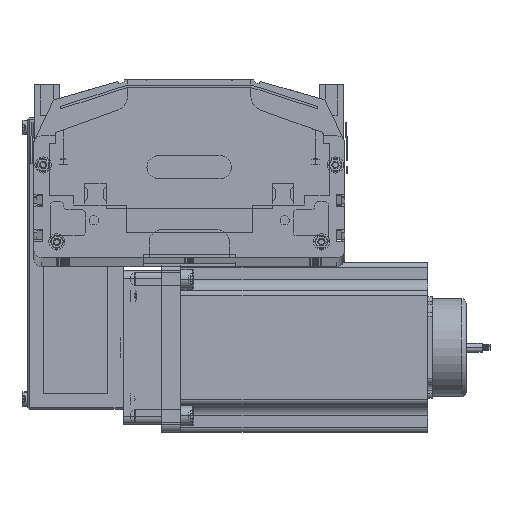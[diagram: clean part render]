
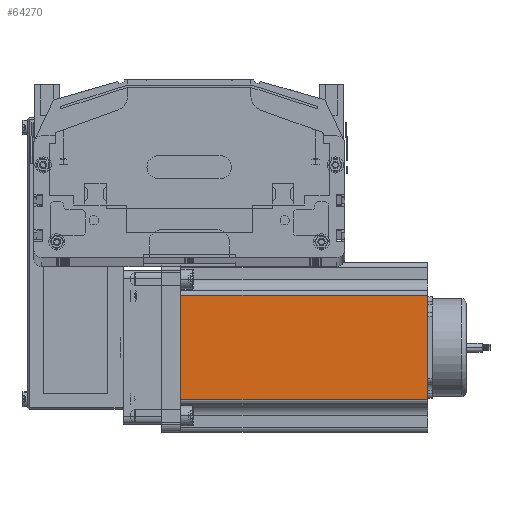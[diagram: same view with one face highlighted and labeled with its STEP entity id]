
A CAD part, top view. The second image highlights one B-rep face of the part: STEP entity #64270.
In plain terms, the highlighted planar face has unit normal (0, 0, 1) as drawn and (0, -1, 0) by its records, which use the part's own axes.
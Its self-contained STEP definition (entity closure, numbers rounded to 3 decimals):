
#23319 = LINE ( 'NONE', #23556, #23552 ) ;
#23420 = CARTESIAN_POINT ( 'NONE',  ( 88.952, 0., 160.5 ) ) ;
#23550 = DIRECTION ( 'NONE',  ( 1., 0., 0. ) ) ;
#23552 = VECTOR ( 'NONE', #23550, 1000. ) ;
#23556 = CARTESIAN_POINT ( 'NONE',  ( 0., 0., 160.5 ) ) ;
#34845 = DIRECTION ( 'NONE',  ( 0., 0., 1. ) ) ;
#34846 = VECTOR ( 'NONE', #34845, 1000. ) ;
#34849 = CARTESIAN_POINT ( 'NONE',  ( 88.952, 0., 160.5 ) ) ;
#34851 = LINE ( 'NONE', #34849, #34846 ) ;
#54143 = ORIENTED_EDGE ( 'NONE', *, *, #55963, .T. ) ;
#54160 = ORIENTED_EDGE ( 'NONE', *, *, #58256, .T. ) ;
#54167 = EDGE_CURVE ( 'NONE', #64269, #54170, #23319, .T. ) ;
#54170 = VERTEX_POINT ( 'NONE', #23420 ) ;
#55943 = ORIENTED_EDGE ( 'NONE', *, *, #54167, .F. ) ;
#55963 = EDGE_CURVE ( 'NONE', #64269, #64277, #89065, .T. ) ;
#57427 = ORIENTED_EDGE ( 'NONE', *, *, #57428, .T. ) ;
#57428 = EDGE_CURVE ( 'NONE', #64277, #64275, #94447, .T. ) ;
#58256 = EDGE_CURVE ( 'NONE', #64275, #54170, #34851, .T. ) ;
#64269 = VERTEX_POINT ( 'NONE', #77148 ) ;
#64270 = ADVANCED_FACE ( 'NONE', ( #77154 ), #77144, .F. ) ;
#64275 = VERTEX_POINT ( 'NONE', #77163 ) ;
#64277 = VERTEX_POINT ( 'NONE', #77201 ) ;
#68737 = EDGE_LOOP ( 'NONE', ( #57427, #54160, #55943, #54143 ) ) ;
#77144 = PLANE ( 'NONE',  #77155 ) ;
#77148 = CARTESIAN_POINT ( 'NONE',  ( 21.048, 0., 160.5 ) ) ;
#77154 = FACE_OUTER_BOUND ( 'NONE', #68737, .T. ) ;
#77155 = AXIS2_PLACEMENT_3D ( 'NONE', #77160, #77204, #77203 ) ;
#77160 = CARTESIAN_POINT ( 'NONE',  ( 0., 0., 160.5 ) ) ;
#77163 = CARTESIAN_POINT ( 'NONE',  ( 88.952, 0., 0. ) ) ;
#77201 = CARTESIAN_POINT ( 'NONE',  ( 21.048, 0., 0. ) ) ;
#77203 = DIRECTION ( 'NONE',  ( 0., 0., 1. ) ) ;
#77204 = DIRECTION ( 'NONE',  ( 0., 1., 0. ) ) ;
#89062 = DIRECTION ( 'NONE',  ( 0., 0., -1. ) ) ;
#89063 = VECTOR ( 'NONE', #89062, 1000. ) ;
#89064 = CARTESIAN_POINT ( 'NONE',  ( 21.048, 0., 160.5 ) ) ;
#89065 = LINE ( 'NONE', #89064, #89063 ) ;
#94381 = DIRECTION ( 'NONE',  ( 1., 0., 0. ) ) ;
#94382 = CARTESIAN_POINT ( 'NONE',  ( 0., 0., 0. ) ) ;
#94437 = VECTOR ( 'NONE', #94381, 1000. ) ;
#94447 = LINE ( 'NONE', #94382, #94437 ) ;
